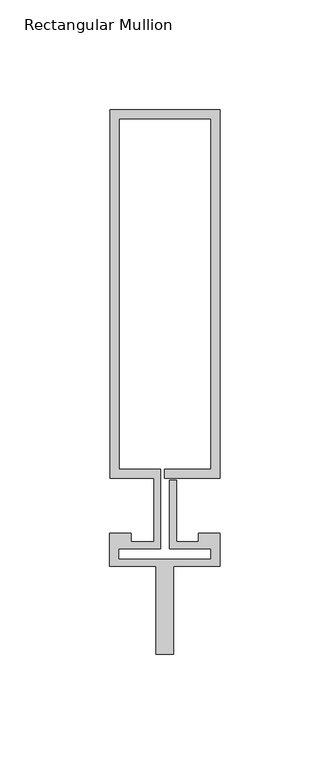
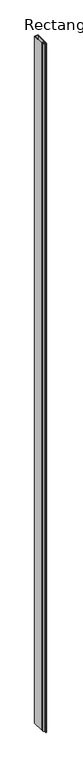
"""IFC4 building model written with IfcOpenShell, lengths in millimetres: member geometry, Rectangular Mullion : Reynaers_CW-50_Mullion-Transom_Vertical_167.5mm_Facecap-06B."""

from ifc_helpers import new_model, si_unit, frame, origin, place, context, project, spatial, polyline, outline, extrude, source, transform, mapped, element, save


def rectangular_mullion_20ecc878(model_context):
    return source(origin(), model_context, "Body", "SweptSolid", [
        extrude(outline(polyline([(-24.8004059, 180.0), (25.1995941, 180.0), (25.1995941, 12.5), (0.0, 12.5), (0.0, 16.5), (21.1995941, 16.5), (21.1995941, 176.0), (-20.8004059, 176.0), (-20.8004059, 16.5), (-1.9004059, 16.5), (-1.9004059, -19.5), (-20.994845, -19.5), (-20.994845, -24.4191338), (21.1995941, -24.4191338), (21.1995941, -19.5), (2.2995941, -19.5), (2.2995941, 11.5), (5.2995941, 11.5), (5.2995941, -16.5), (15.2996495, -16.5), (15.2996495, -12.5), (25.1995941, -12.5), (25.1995941, -27.5), (4.004855, -27.5), (4.004855, -67.5), (-3.995145, -67.5), (-3.995145, -27.5), (-24.994845, -27.5), (-24.994845, -12.5), (-15.2996495, -12.5), (-15.2996495, -16.5), (-4.9004059, -16.5), (-4.9004059, 12.5), (-24.8004059, 12.5), (-24.8004059, 180.0)])), frame((0.0, 0.0, -10400.0), z_axis=(0.0, 0.0, 1.0), x_axis=(1.0, 0.0, 0.0)), (0.0, 0.0, 1.0), 10400.0),
    ])


if __name__ == "__main__":
    model = new_model("IFC4")
    model_context = context("Model", 3, world=origin())
    ifc_project = project(units=[si_unit("LENGTHUNIT", "METRE", prefix="MILLI")], contexts=[model_context])
    site = spatial("IfcSite", under=ifc_project)
    building = spatial("IfcBuilding", under=site)
    placement = place(None, origin())
    rectangular_mullion_shape = rectangular_mullion_20ecc878(model_context)
    element("IfcMember", 1, ObjectType="Rectangular Mullion : Reynaers_CW-50_Mullion-Transom_Vertical_167.5mm_Facecap-06B", at=placement, inside=building, context=model_context, shape_type="MappedRepresentation", body=[
        mapped(rectangular_mullion_shape, transform((0.0, 0.0, 0.0), x_axis=(1.0, 0.0, 0.0), y_axis=(0.0, 1.0, 0.0), z_axis=(0.0, 0.0, 1.0))),
    ])
    save(model, "model.ifc")
